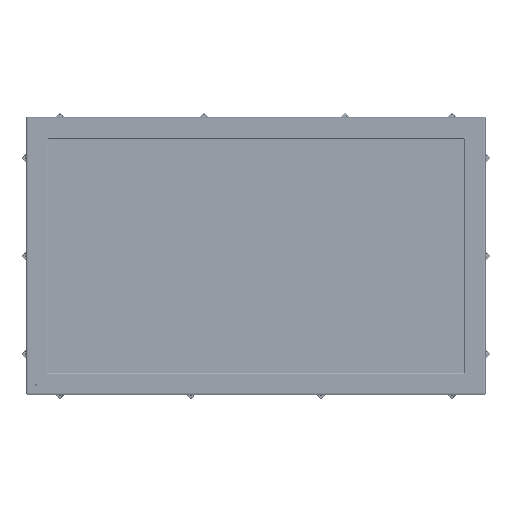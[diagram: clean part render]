
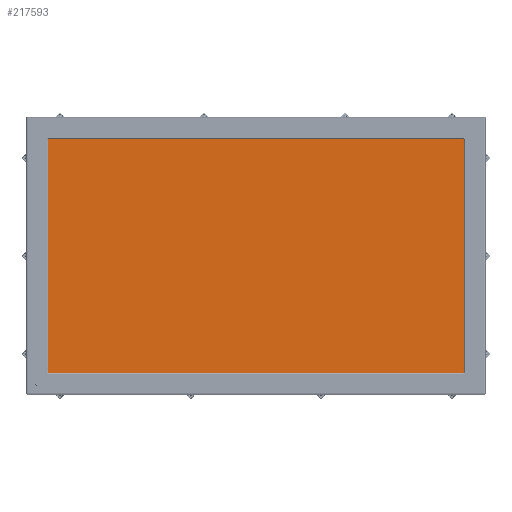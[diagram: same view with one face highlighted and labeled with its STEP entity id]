
A CAD part, top view. The second image highlights one B-rep face of the part: STEP entity #217593.
In plain terms, the highlighted planar face has unit normal (0, 0, 1) as drawn and (0, 1, 0) by its records, which use the part's own axes.
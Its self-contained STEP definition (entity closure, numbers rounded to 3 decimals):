
#6613 = CARTESIAN_POINT ( 'NONE',  ( 0., 3.25, 134.3 ) ) ;
#14711 = CARTESIAN_POINT ( 'NONE',  ( 238.75, 3.25, -134.3 ) ) ;
#28414 = CARTESIAN_POINT ( 'NONE',  ( -238.75, 3.25, -134.3 ) ) ;
#30180 = DIRECTION ( 'NONE',  ( 1., 0., 0. ) ) ;
#55479 = CARTESIAN_POINT ( 'NONE',  ( 0., 3.25, -134.3 ) ) ;
#64853 = VERTEX_POINT ( 'NONE', #28414 ) ;
#76951 = VECTOR ( 'NONE', #30180, 1000. ) ;
#94550 = EDGE_CURVE ( 'NONE', #110088, #111304, #322070, .T. ) ;
#100143 = CARTESIAN_POINT ( 'NONE',  ( 0., 3.25, 0. ) ) ;
#102213 = DIRECTION ( 'NONE',  ( 0., 1., 0. ) ) ;
#103281 = EDGE_CURVE ( 'NONE', #111304, #64853, #288262, .T. ) ;
#110088 = VERTEX_POINT ( 'NONE', #301486 ) ;
#111304 = VERTEX_POINT ( 'NONE', #383923 ) ;
#113531 = VECTOR ( 'NONE', #383168, 1000. ) ;
#126516 = ORIENTED_EDGE ( 'NONE', *, *, #94550, .F. ) ;
#163758 = LINE ( 'NONE', #359185, #240063 ) ;
#187219 = EDGE_LOOP ( 'NONE', ( #235457, #314789, #377749, #126516 ) ) ;
#195236 = DIRECTION ( 'NONE',  ( 0., 0., 1. ) ) ;
#203113 = DIRECTION ( 'NONE',  ( 1., 0., 0. ) ) ;
#217593 = ADVANCED_FACE ( 'NONE', ( #249615 ), #220128, .T. ) ;
#220128 = PLANE ( 'NONE',  #307777 ) ;
#235457 = ORIENTED_EDGE ( 'NONE', *, *, #298870, .F. ) ;
#240063 = VECTOR ( 'NONE', #195236, 1000. ) ;
#242170 = VERTEX_POINT ( 'NONE', #14711 ) ;
#249615 = FACE_OUTER_BOUND ( 'NONE', #187219, .T. ) ;
#250987 = LINE ( 'NONE', #55479, #76951 ) ;
#260884 = CARTESIAN_POINT ( 'NONE',  ( -238.75, 3.25, 0. ) ) ;
#262945 = DIRECTION ( 'NONE',  ( 0., 0., -1. ) ) ;
#288262 = LINE ( 'NONE', #260884, #346292 ) ;
#298870 = EDGE_CURVE ( 'NONE', #242170, #110088, #163758, .T. ) ;
#301486 = CARTESIAN_POINT ( 'NONE',  ( 238.75, 3.25, 134.3 ) ) ;
#307777 = AXIS2_PLACEMENT_3D ( 'NONE', #100143, #102213, #203113 ) ;
#314789 = ORIENTED_EDGE ( 'NONE', *, *, #410368, .F. ) ;
#322070 = LINE ( 'NONE', #6613, #113531 ) ;
#346292 = VECTOR ( 'NONE', #262945, 1000. ) ;
#359185 = CARTESIAN_POINT ( 'NONE',  ( 238.75, 3.25, 0. ) ) ;
#377749 = ORIENTED_EDGE ( 'NONE', *, *, #103281, .F. ) ;
#383168 = DIRECTION ( 'NONE',  ( -1., 0., 0. ) ) ;
#383923 = CARTESIAN_POINT ( 'NONE',  ( -238.75, 3.25, 134.3 ) ) ;
#410368 = EDGE_CURVE ( 'NONE', #64853, #242170, #250987, .T. ) ;
